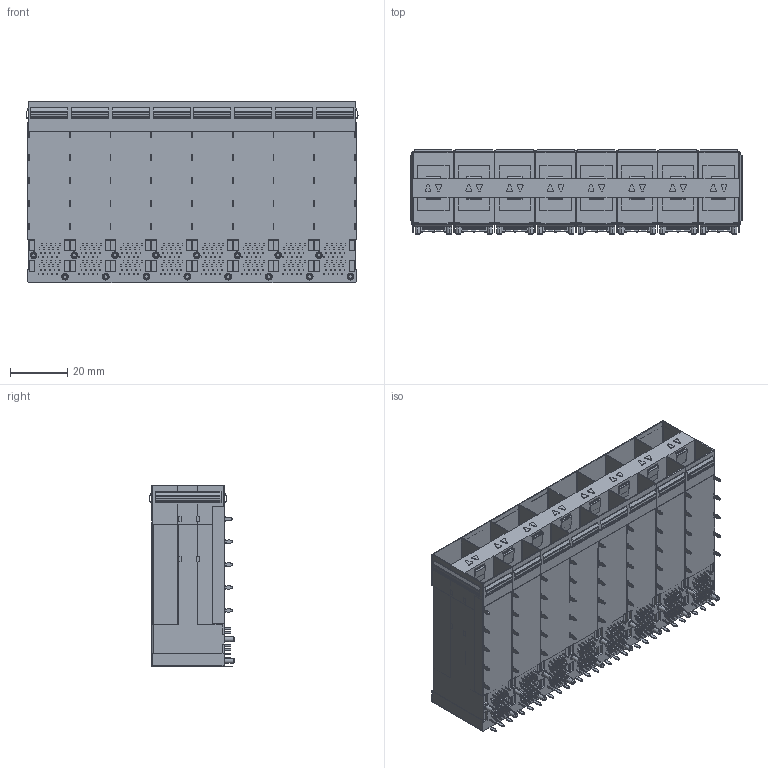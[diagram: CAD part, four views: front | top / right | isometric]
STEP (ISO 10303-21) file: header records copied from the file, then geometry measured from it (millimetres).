
FILE_DESCRIPTION (( 'STEP AP203' ), '1' );
FILE_NAME ('22802_SFP+ 2X8 囀絳嫖翐.STEP', '2024-06-05T00:39:25', ( '' ), ( '' ), 'SwSTEP 2.0', 'SolidWorks 2018', '' );
FILE_SCHEMA (( 'CONFIG_CONTROL_DESIGN' ));
Products named in the file (1): 22802_SFP+ 2X8 囀絳嫖翐
Bounding box: 116.06 x 29.78 x 63.5 mm (x, y, z)
Volume: 93253.3 mm3; surface area: 65497.7 mm2
Topology: 1 solids, 1 shells, 4165 faces, 11499 edges, 7794 vertices
Faces by surface type: plane 3095, cylinder 1004, cone 64, sphere 2
Entity records: 132596 total; most frequent: CARTESIAN_POINT 23457, ORIENTED_EDGE 22994, DIRECTION 21905, EDGE_CURVE 11497, VECTOR 9421, LINE 9421, VERTEX_POINT 7794, AXIS2_PLACEMENT_3D 6242
